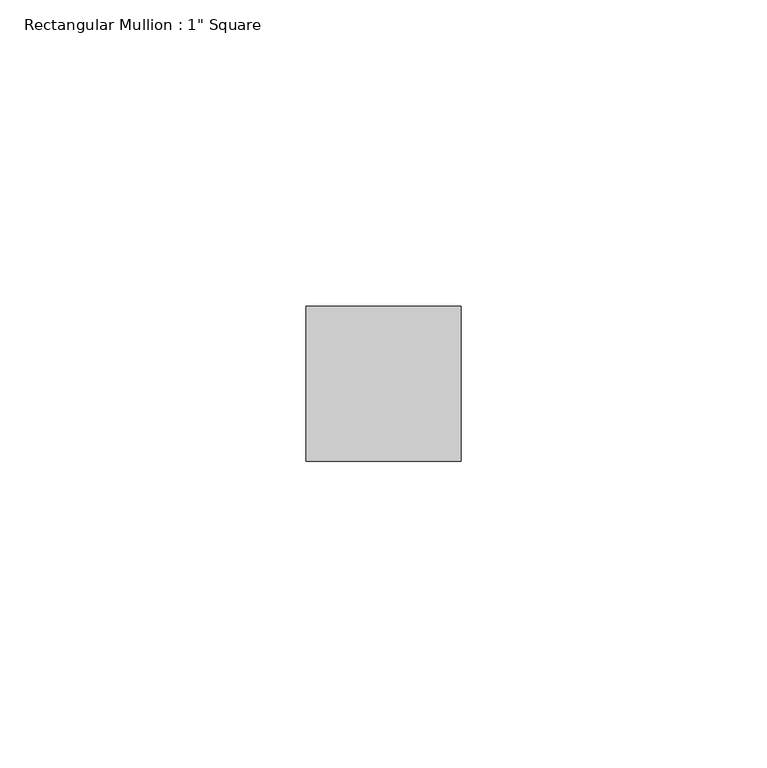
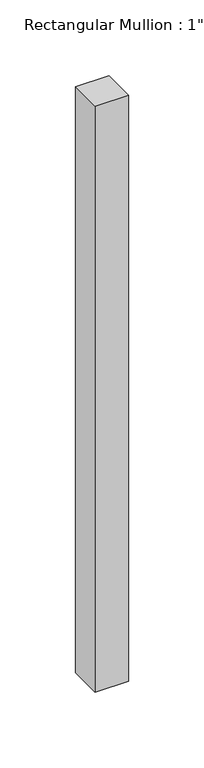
"""IFC4 building model written with IfcOpenShell, lengths in millimetres: member geometry."""

from ifc_helpers import new_model, si_unit, frame, origin, place, context, project, spatial, polyline, outline, extrude, source, transform, mapped, element, save


def member_6b724055(model_context):
    return source(origin(), model_context, "Body", "SweptSolid", [
        extrude(outline(polyline([(12.7, 12.7), (12.7, -12.7), (-12.7, -12.7), (-12.7, 12.7), (12.7, 12.7)])), frame((0.0, 0.0, -471.3522053), z_axis=(0.0, 0.0, 1.0), x_axis=(1.0, 0.0, 0.0)), (0.0, 0.0, 1.0), 471.3522053),
    ])


if __name__ == "__main__":
    model = new_model("IFC4")
    model_context = context("Model", 3, world=origin())
    ifc_project = project(units=[si_unit("LENGTHUNIT", "METRE", prefix="MILLI")], contexts=[model_context])
    site = spatial("IfcSite", under=ifc_project)
    building = spatial("IfcBuilding", under=site)
    placement = place(None, origin())
    member_shape = member_6b724055(model_context)
    element("IfcMember", 1, ObjectType="Rectangular Mullion : 1\" Square", at=placement, inside=building, context=model_context, shape_type="MappedRepresentation", body=[
        mapped(member_shape, transform((0.0, 0.0, 0.0), x_axis=(1.0, 0.0, 0.0), y_axis=(0.0, 1.0, 0.0), z_axis=(0.0, 0.0, 1.0))),
    ])
    save(model, "model.ifc")
